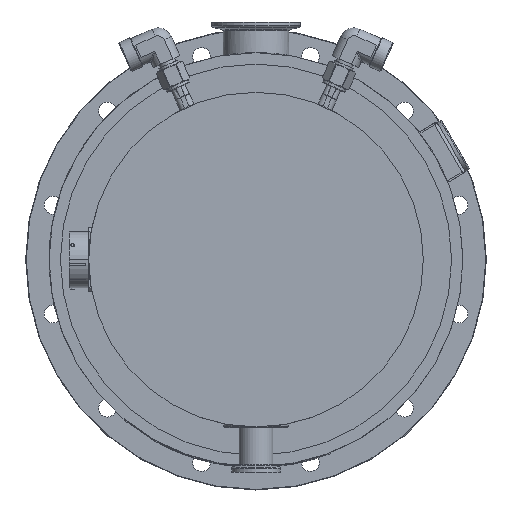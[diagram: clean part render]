
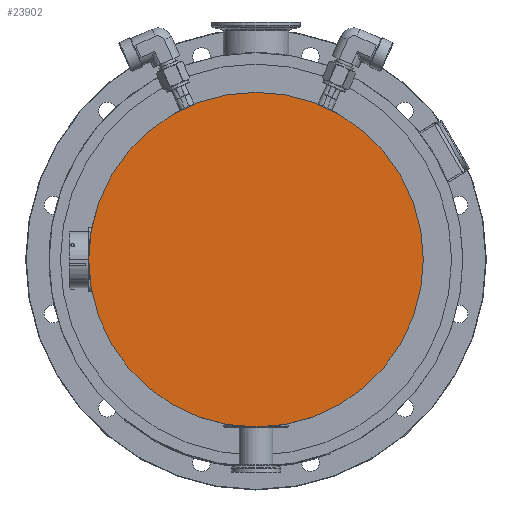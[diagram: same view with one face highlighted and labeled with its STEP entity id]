
A CAD part, front view. The second image highlights one B-rep face of the part: STEP entity #23902.
In plain terms, the highlighted planar face has unit normal (0, -1, 0).
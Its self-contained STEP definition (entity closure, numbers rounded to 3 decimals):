
#6030=CARTESIAN_POINT('',(0.,-7.7,0.));
#6031=DIRECTION('',(0.,1.,0.));
#6032=DIRECTION('',(0.,0.,1.));
#6033=AXIS2_PLACEMENT_3D('',#6030,#6031,#6032);
#6035=CARTESIAN_POINT('',(0.,-7.7,0.));
#6036=DIRECTION('',(0.,-1.,0.));
#6037=DIRECTION('',(0.,0.,1.));
#6038=AXIS2_PLACEMENT_3D('',#6035,#6036,#6037);
#10611=CARTESIAN_POINT('',(0.,-7.7,103.5));
#10613=VERTEX_POINT('',#10611);
#10646=CARTESIAN_POINT('',(0.,-7.7,-103.5));
#10647=VERTEX_POINT('',#10646);
#23893=CARTESIAN_POINT('',(0.,-7.7,0.));
#23894=DIRECTION('',(0.,-1.,0.));
#23895=DIRECTION('',(0.,0.,1.));
#23896=AXIS2_PLACEMENT_3D('',#23893,#23894,#23895);
#23897=PLANE('',#23896);
#23898=ORIENTED_EDGE('',*,*,#13158,.T.);
#23899=ORIENTED_EDGE('',*,*,#13728,.F.);
#23900=EDGE_LOOP('',(#23898,#23899));
#23901=FACE_OUTER_BOUND('',#23900,.F.);
#23902=ADVANCED_FACE('',(#23901),#23897,.T.);
#6034=CIRCLE('',#6033,103.5);
#6039=CIRCLE('',#6038,103.5);
#13158=EDGE_CURVE('',#10613,#10647,#6034,.T.);
#13728=EDGE_CURVE('',#10613,#10647,#6039,.T.);
